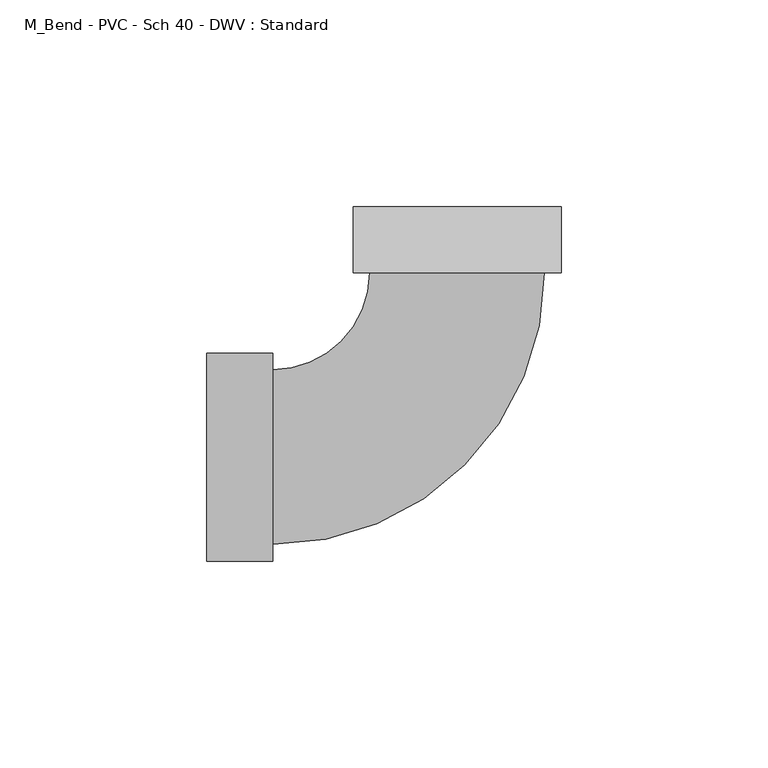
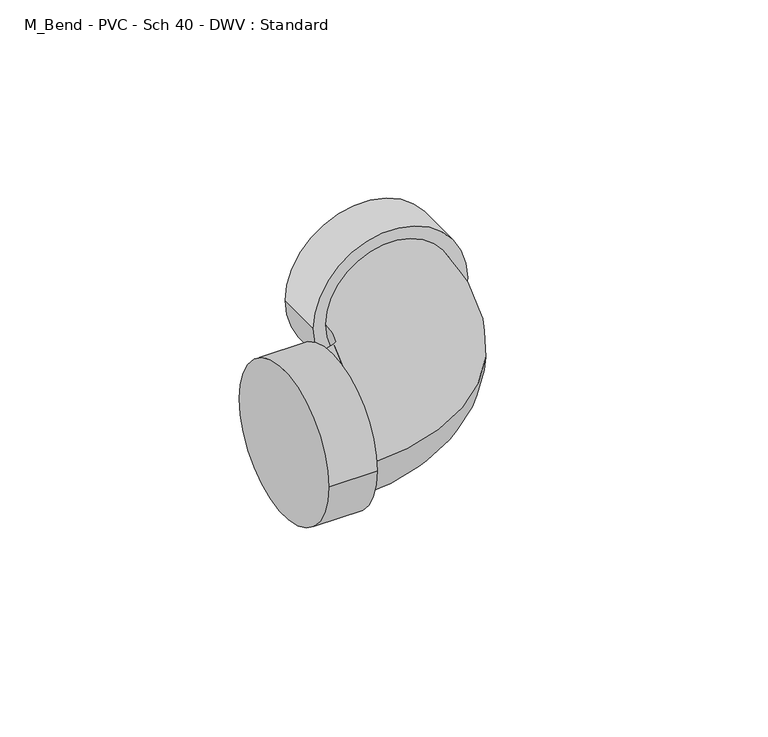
"""IFC4 building model written with IfcOpenShell, lengths in millimetres: pipe fitting geometry, M_Bend - PVC - Sch 40 - DWV : Standard."""

from ifc_helpers import new_model, si_unit, point, frame, origin, place, context, project, spatial, circle_curve, ellipse_curve, trimmed, source, transform, mapped, element, save
from ifc_brep_helpers import plane_surface, cylinder_surface, revolved_surface, advanced_brep


def m_bend_pvc_sch_40_dwv_standard_04e582cf(model_context):
    return source(origin(), model_context, "Body", "AdvancedBrep", [
        advanced_brep(
        [(-60.5020625, -25.1591094, 0.0), (-60.5020625, 25.1591094, 0.0), (-44.6020625, -25.1591094, 0.0), (-44.6020625, 25.1591094, 0.0), (-44.6020625, -21.1000625, 0.0), (-44.6020625, 21.1000625, 0.0), (-21.1000625, 44.6020625, 0.0), (21.1000625, 44.6020625, 0.0), (25.1591094, 44.6020625, 0.0), (-25.1591094, 44.6020625, 0.0), (25.1591094, 60.5020625, 0.0), (-25.1591094, 60.5020625, 0.0)],
        [
            (0, 1, circle_curve(frame((-60.5020625, 0.0, 0.0), z_axis=(-1.0, 0.0, 0.0), x_axis=(0.0, 1.0, 0.0)), 25.1591094)),
            (1, 0, circle_curve(frame((-60.5020625, 0.0, 0.0), z_axis=(-1.0, 0.0, 0.0), x_axis=(0.0, 1.0, 0.0)), 25.1591094)),
            (2, 3, circle_curve(frame((-44.6020625, 0.0, 0.0), z_axis=(1.0, 0.0, 0.0), x_axis=(0.0, 1.0, 0.0)), 25.1591094)),
            (3, 2, circle_curve(frame((-44.6020625, 0.0, 0.0), z_axis=(1.0, 0.0, 0.0), x_axis=(0.0, 1.0, 0.0)), 25.1591094)),
            (4, 5, circle_curve(frame((-44.6020625, 0.0, 0.0), z_axis=(-1.0, 0.0, 0.0), x_axis=(0.0, 1.0, 0.0)), 21.1000625)),
            (5, 4, circle_curve(frame((-44.6020625, 0.0, 0.0), z_axis=(-1.0, 0.0, 0.0), x_axis=(0.0, 1.0, 0.0)), 21.1000625)),
            (0, 2),
            (3, 1),
            (6, 5, circle_curve(frame((-44.6020625, 44.6020625, 0.0), z_axis=(0.0, 0.0, -1.0), x_axis=(0.0, -1.0, 0.0)), 23.502)),
            (4, 7, circle_curve(frame((-44.6020625, 44.6020625, 0.0), z_axis=(0.0, 0.0, 1.0), x_axis=(0.0, -1.0, 0.0)), 65.702125)),
            (7, 6, circle_curve(frame((0.0, 44.6020625, 0.0), z_axis=(0.0, -1.0, 0.0), x_axis=(-1.0, 0.0, 0.0)), 21.1000625)),
            (6, 7, circle_curve(frame((0.0, 44.6020625, 0.0), z_axis=(0.0, -1.0, 0.0), x_axis=(-1.0, 0.0, 0.0)), 21.1000625)),
            (8, 9, circle_curve(frame((0.0, 44.6020625, 0.0), z_axis=(0.0, -1.0, 0.0), x_axis=(-1.0, 0.0, 0.0)), 25.1591094)),
            (9, 8, circle_curve(frame((0.0, 44.6020625, 0.0), z_axis=(0.0, -1.0, 0.0), x_axis=(-1.0, 0.0, 0.0)), 25.1591094)),
            (10, 11, circle_curve(frame((0.0, 60.5020625, 0.0), z_axis=(0.0, 1.0, 0.0), x_axis=(-1.0, 0.0, 0.0)), 25.1591094)),
            (11, 10, circle_curve(frame((0.0, 60.5020625, 0.0), z_axis=(0.0, 1.0, 0.0), x_axis=(-1.0, 0.0, 0.0)), 25.1591094)),
            (8, 10),
            (11, 9),
        ],
        [
            plane_surface(frame((-60.5020625, 0.0, 0.0), z_axis=(-1.0, 0.0, 0.0), x_axis=(0.0, 0.0, 1.0))),
            plane_surface(frame((-44.6020625, 0.0, 0.0), z_axis=(1.0, 0.0, 0.0), x_axis=(0.0, 0.0, 1.0))),
            cylinder_surface(frame((-60.5020625, 0.0, 0.0), z_axis=(-1.0, 0.0, 0.0), x_axis=(0.0, 1.0, 0.0)), 25.1591094),
            revolved_surface(trimmed(ellipse_curve(frame((-44.6020625, 0.0, 0.0), z_axis=(-1.0, 0.0, 0.0), x_axis=(0.0, 1.0, 0.0)), 21.1000625, 21.1000625), [point((-44.6020625, -21.1000625, 0.0))], [point((-44.6020625, 21.1000625, 0.0))], True, "CARTESIAN"), (-44.6020625, 44.6020625, 0.0), (0.0, 0.0, 1.0)),
            revolved_surface(trimmed(ellipse_curve(frame((-44.6020625, 0.0, 0.0), z_axis=(-1.0, 0.0, 0.0), x_axis=(0.0, 1.0, 0.0)), 21.1000625, 21.1000625), [point((-44.6020625, 21.1000625, 0.0))], [point((-44.6020625, -21.1000625, 0.0))], True, "CARTESIAN"), (-44.6020625, 44.6020625, 0.0), (0.0, 0.0, 1.0)),
            plane_surface(frame((0.0, 44.6020625, 0.0), z_axis=(0.0, -1.0, 0.0), x_axis=(0.0, 0.0, 1.0))),
            plane_surface(frame((0.0, 60.5020625, 0.0), z_axis=(0.0, 1.0, 0.0), x_axis=(0.0, 0.0, 1.0))),
            cylinder_surface(frame((0.0, 44.6020625, 0.0), z_axis=(0.0, -1.0, 0.0), x_axis=(-1.0, 0.0, 0.0)), 25.1591094),
        ],
        [
            (0, [[1, 2]]),
            (1, [[3, 4], [5, 6]]),
            (2, [[-1, 7, -4, 8]]),
            (2, [[-2, -8, -3, -7]]),
            (3, [[9, -5, 10, 11]]),
            (4, [[-9, 12, -10, -6]]),
            (5, [[13, 14], [-11, -12]]),
            (6, [[15, 16]]),
            (7, [[-13, 17, -16, 18]]),
            (7, [[-14, -18, -15, -17]]),
        ],
    ),
    ])


if __name__ == "__main__":
    model = new_model("IFC4")
    model_context = context("Model", 3, world=origin())
    ifc_project = project(units=[si_unit("LENGTHUNIT", "METRE", prefix="MILLI")], contexts=[model_context])
    site = spatial("IfcSite", under=ifc_project)
    building = spatial("IfcBuilding", under=site)
    placement = place(None, origin())
    m_bend_pvc_sch_40_dwv_standard_shape = m_bend_pvc_sch_40_dwv_standard_04e582cf(model_context)
    element("IfcPipeFitting", 1, ObjectType="M_Bend - PVC - Sch 40 - DWV : Standard", at=placement, inside=building, context=model_context, shape_type="MappedRepresentation", body=[
        mapped(m_bend_pvc_sch_40_dwv_standard_shape, transform((0.0, 0.0, 0.0), x_axis=(1.0, 0.0, 0.0), y_axis=(0.0, 1.0, 0.0), z_axis=(0.0, 0.0, 1.0))),
    ])
    save(model, "model.ifc")
